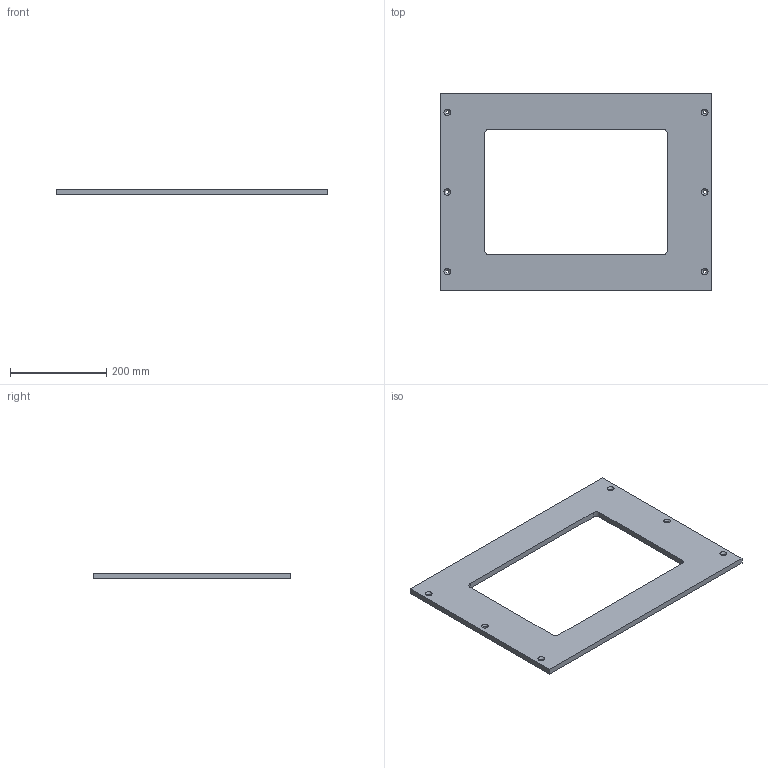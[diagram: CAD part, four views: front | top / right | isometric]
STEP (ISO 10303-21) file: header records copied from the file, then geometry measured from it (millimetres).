
FILE_DESCRIPTION(/* description */ ('base_drawer_dummy_plate'),/* implementation_level */ '2;1');
FILE_NAME(/* name */ '04_base_drawer_dummy_plate_x1.step',/* time_stamp */ '2026-10-27T16:17:51+01:00',/* author */ (''),/* organization */ (''),/* preprocessor_version */ 'ST-DEVELOPER v20.2',/* originating_system */ 'Autodesk Translation Framework v15.17.0.0',/* authorisation */ '');
FILE_SCHEMA (('AUTOMOTIVE_DESIGN { 1 0 10303 214 3 1 1 }'));
Length unit declared in the file: millimetre
Products named in the file (1): 2026-10-27-16-17-50-945
Bounding box: 564 x 410 x 12 mm (x, y, z)
Volume: 1586778.4 mm3; surface area: 304503.6 mm2
Topology: 1 solids, 1 shells, 26 faces, 72 edges, 48 vertices
Faces by surface type: plane 10, cylinder 10, cone 6
Full cylindrical faces by diameter (mm): 6.6 x6
Entity records: 916 total; most frequent: DIRECTION 158, CARTESIAN_POINT 147, ORIENTED_EDGE 144, EDGE_CURVE 72, AXIS2_PLACEMENT_3D 59, VERTEX_POINT 48, EDGE_LOOP 40, LINE 40
